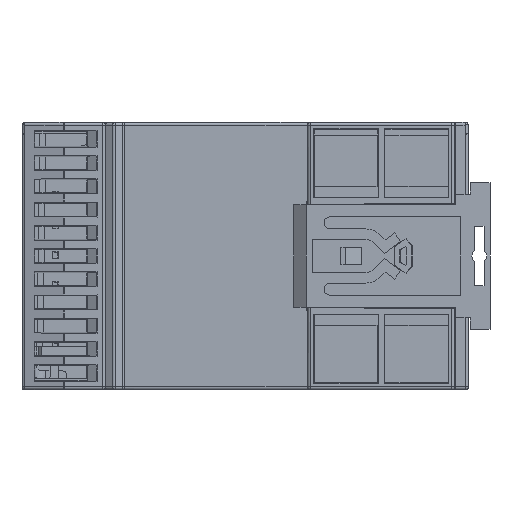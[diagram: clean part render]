
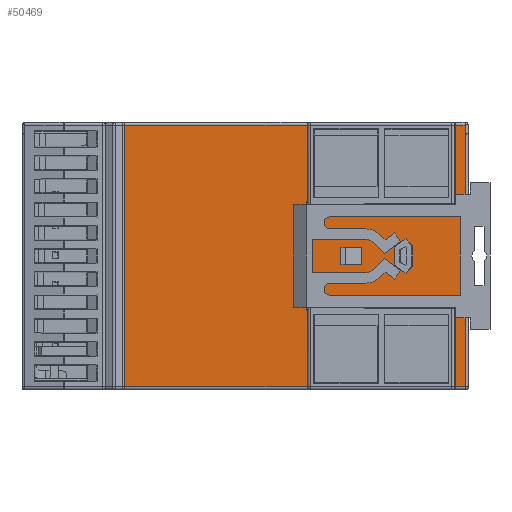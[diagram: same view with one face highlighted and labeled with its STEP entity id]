
A CAD part, left-side view. The second image highlights one B-rep face of the part: STEP entity #50469.
In plain terms, the highlighted planar face has unit normal (-1, 0, 0).
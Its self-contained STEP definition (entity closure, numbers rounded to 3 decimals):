
#4762=DIRECTION('',(0.,1.,0.));
#4763=VECTOR('',#4762,3.5);
#4764=CARTESIAN_POINT('',(-50.,-19.5,-19.));
#4765=LINE('',#4764,#4763);
#4769=DIRECTION('',(0.,0.,-1.));
#4770=VECTOR('',#4769,3.);
#4771=CARTESIAN_POINT('',(-50.,-16.,-19.));
#4772=LINE('',#4771,#4770);
#4776=DIRECTION('',(0.,1.,0.));
#4777=VECTOR('',#4776,3.5);
#4778=CARTESIAN_POINT('',(-50.,-19.5,-22.));
#4779=LINE('',#4778,#4777);
#4783=DIRECTION('',(0.,0.,-1.));
#4784=VECTOR('',#4783,3.);
#4785=CARTESIAN_POINT('',(-50.,-19.5,-19.));
#4786=LINE('',#4785,#4784);
#4832=DIRECTION('',(0.,-0.813,-0.582));
#4833=VECTOR('',#4832,2.459);
#4834=CARTESIAN_POINT('',(-50.,-25.,-22.015));
#4835=LINE('',#4834,#4833);
#4839=DIRECTION('',(0.,-0.642,0.767));
#4840=VECTOR('',#4839,1.558);
#4841=CARTESIAN_POINT('',(-50.,-27.,-23.445));
#4842=LINE('',#4841,#4840);
#4846=DIRECTION('',(0.,0.,1.));
#4847=VECTOR('',#4846,3.5);
#4848=CARTESIAN_POINT('',(-50.,-28.,-22.25));
#4849=LINE('',#4848,#4847);
#4853=DIRECTION('',(0.,0.642,0.767));
#4854=VECTOR('',#4853,1.558);
#4855=CARTESIAN_POINT('',(-50.,-28.,-18.75));
#4856=LINE('',#4855,#4854);
#4860=DIRECTION('',(0.,0.813,-0.582));
#4861=VECTOR('',#4860,2.459);
#4862=CARTESIAN_POINT('',(-50.,-27.,-17.555));
#4863=LINE('',#4862,#4861);
#4867=DIRECTION('',(0.,0.,-1.));
#4868=VECTOR('',#4867,3.03);
#4869=CARTESIAN_POINT('',(-50.,-25.,-18.985));
#4870=LINE('',#4869,#4868);
#4874=DIRECTION('',(0.,1.,0.));
#4875=VECTOR('',#4874,1.7);
#4876=CARTESIAN_POINT('',(-50.,-37.,-42.5));
#4877=LINE('',#4876,#4875);
#4881=DIRECTION('',(0.,1.,0.009));
#4882=VECTOR('',#4881,24.901);
#4883=CARTESIAN_POINT('',(-50.,-35.3,-31.217));
#4884=LINE('',#4883,#4882);
#4888=DIRECTION('',(0.,-1.,0.));
#4889=VECTOR('',#4888,30.719);
#4890=CARTESIAN_POINT('',(-50.,20.319,-42.5));
#4891=LINE('',#4890,#4889);
#4895=DIRECTION('',(0.,0.,-1.));
#4896=VECTOR('',#4895,44.);
#4897=CARTESIAN_POINT('',(-50.,20.319,1.5));
#4898=LINE('',#4897,#4896);
#4902=DIRECTION('',(0.,1.,0.));
#4903=VECTOR('',#4902,30.719);
#4904=CARTESIAN_POINT('',(-50.,-10.4,1.5));
#4905=LINE('',#4904,#4903);
#4909=DIRECTION('',(0.,1.,0.));
#4910=VECTOR('',#4909,1.621);
#4911=CARTESIAN_POINT('',(-50.,-36.921,1.5));
#4912=LINE('',#4911,#4910);
#4916=DIRECTION('',(0.,0.052,0.999));
#4917=VECTOR('',#4916,1.515);
#4918=CARTESIAN_POINT('',(-50.,-37.,-0.013));
#4919=LINE('',#4918,#4917);
#4923=DIRECTION('',(0.,0.,-1.));
#4924=VECTOR('',#4923,42.487);
#4925=CARTESIAN_POINT('',(-50.,-37.,-0.013));
#4926=LINE('',#4925,#4924);
#16108=DIRECTION('',(0.,0.,1.));
#16109=VECTOR('',#16108,11.5);
#16110=CARTESIAN_POINT('',(-50.,-10.4,-10.));
#16111=LINE('',#16110,#16109);
#16122=DIRECTION('',(0.,0.,1.));
#16123=VECTOR('',#16122,11.5);
#16124=CARTESIAN_POINT('',(-50.,-10.4,-42.5));
#16125=LINE('',#16124,#16123);
#16157=DIRECTION('',(0.,0.,-1.));
#16158=VECTOR('',#16157,11.283);
#16159=CARTESIAN_POINT('',(-50.,-35.3,1.5));
#16160=LINE('',#16159,#16158);
#16227=DIRECTION('',(0.,0.,-1.));
#16228=VECTOR('',#16227,11.283);
#16229=CARTESIAN_POINT('',(-50.,-35.3,-31.217));
#16230=LINE('',#16229,#16228);
#16241=DIRECTION('',(0.,1.,-0.009));
#16242=VECTOR('',#16241,24.901);
#16243=CARTESIAN_POINT('',(-50.,-35.3,-9.783));
#16244=LINE('',#16243,#16242);
#16304=CARTESIAN_POINT('',(-50.,-10.4,-42.5));
#41960=CARTESIAN_POINT('',(-50.,-19.5,-19.));
#41961=CARTESIAN_POINT('',(-50.,-16.,-19.));
#41962=VERTEX_POINT('',#41960);
#41963=VERTEX_POINT('',#41961);
#41964=CARTESIAN_POINT('',(-50.,-19.5,-22.));
#41965=CARTESIAN_POINT('',(-50.,-16.,-22.));
#41966=VERTEX_POINT('',#41964);
#41967=VERTEX_POINT('',#41965);
#42012=CARTESIAN_POINT('',(-50.,-25.,-22.015));
#42013=CARTESIAN_POINT('',(-50.,-27.,-23.445));
#42014=VERTEX_POINT('',#42012);
#42015=VERTEX_POINT('',#42013);
#42016=CARTESIAN_POINT('',(-50.,-28.,-22.25));
#42017=VERTEX_POINT('',#42016);
#42018=CARTESIAN_POINT('',(-50.,-28.,-18.75));
#42019=VERTEX_POINT('',#42018);
#42020=CARTESIAN_POINT('',(-50.,-27.,-17.555));
#42021=VERTEX_POINT('',#42020);
#42022=CARTESIAN_POINT('',(-50.,-25.,-18.985));
#42023=VERTEX_POINT('',#42022);
#42512=CARTESIAN_POINT('',(-50.,20.319,1.5));
#42513=VERTEX_POINT('',#42512);
#42516=CARTESIAN_POINT('',(-50.,-10.4,1.5));
#42517=VERTEX_POINT('',#42516);
#42532=CARTESIAN_POINT('',(-50.,-36.921,1.5));
#42533=CARTESIAN_POINT('',(-50.,-35.3,1.5));
#42534=VERTEX_POINT('',#42532);
#42535=VERTEX_POINT('',#42533);
#42536=CARTESIAN_POINT('',(-50.,-37.,-0.013));
#42537=VERTEX_POINT('',#42536);
#42555=CARTESIAN_POINT('',(-50.,-37.,-42.5));
#42557=VERTEX_POINT('',#42555);
#42566=CARTESIAN_POINT('',(-50.,-35.3,-42.5));
#42567=VERTEX_POINT('',#42566);
#42608=CARTESIAN_POINT('',(-50.,20.319,-42.5));
#42609=VERTEX_POINT('',#42608);
#42614=VERTEX_POINT('',#16304);
#42770=CARTESIAN_POINT('',(-50.,-35.3,-9.783));
#42772=VERTEX_POINT('',#42770);
#42780=CARTESIAN_POINT('',(-50.,-35.3,-31.217));
#42781=VERTEX_POINT('',#42780);
#42782=CARTESIAN_POINT('',(-50.,-10.4,-10.));
#42784=VERTEX_POINT('',#42782);
#42792=CARTESIAN_POINT('',(-50.,-10.4,-31.));
#42793=VERTEX_POINT('',#42792);
#50413=CARTESIAN_POINT('',(-50.,20.227,-43.));
#50414=DIRECTION('',(1.,0.,0.));
#50415=DIRECTION('',(0.,-1.,0.));
#50416=AXIS2_PLACEMENT_3D('',#50413,#50414,#50415);
#50417=PLANE('',#50416);
#50419=ORIENTED_EDGE('',*,*,#50418,.T.);
#50421=ORIENTED_EDGE('',*,*,#50420,.F.);
#50423=ORIENTED_EDGE('',*,*,#50422,.T.);
#50425=ORIENTED_EDGE('',*,*,#50424,.F.);
#50427=ORIENTED_EDGE('',*,*,#50426,.F.);
#50429=ORIENTED_EDGE('',*,*,#50428,.F.);
#50431=ORIENTED_EDGE('',*,*,#50430,.F.);
#50433=ORIENTED_EDGE('',*,*,#50432,.F.);
#50435=ORIENTED_EDGE('',*,*,#50434,.F.);
#50437=ORIENTED_EDGE('',*,*,#50436,.F.);
#50439=ORIENTED_EDGE('',*,*,#50438,.F.);
#50441=ORIENTED_EDGE('',*,*,#50440,.F.);
#50442=ORIENTED_EDGE('',*,*,#50385,.T.);
#50443=EDGE_LOOP('',(#50419,#50421,#50423,#50425,#50427,#50429,#50431,#50433,
#50435,#50437,#50439,#50441,#50442));
#50444=FACE_OUTER_BOUND('',#50443,.F.);
#50446=ORIENTED_EDGE('',*,*,#50445,.T.);
#50448=ORIENTED_EDGE('',*,*,#50447,.T.);
#50450=ORIENTED_EDGE('',*,*,#50449,.F.);
#50452=ORIENTED_EDGE('',*,*,#50451,.F.);
#50453=EDGE_LOOP('',(#50446,#50448,#50450,#50452));
#50454=FACE_BOUND('',#50453,.F.);
#50456=ORIENTED_EDGE('',*,*,#50455,.T.);
#50458=ORIENTED_EDGE('',*,*,#50457,.T.);
#50460=ORIENTED_EDGE('',*,*,#50459,.T.);
#50462=ORIENTED_EDGE('',*,*,#50461,.T.);
#50464=ORIENTED_EDGE('',*,*,#50463,.T.);
#50466=ORIENTED_EDGE('',*,*,#50465,.T.);
#50467=EDGE_LOOP('',(#50456,#50458,#50460,#50462,#50464,#50466));
#50468=FACE_BOUND('',#50467,.F.);
#50385=EDGE_CURVE('',#42537,#42557,#4926,.T.);
#50418=EDGE_CURVE('',#42557,#42567,#4877,.T.);
#50420=EDGE_CURVE('',#42781,#42567,#16230,.T.);
#50422=EDGE_CURVE('',#42781,#42793,#4884,.T.);
#50424=EDGE_CURVE('',#42614,#42793,#16125,.T.);
#50426=EDGE_CURVE('',#42609,#42614,#4891,.T.);
#50428=EDGE_CURVE('',#42513,#42609,#4898,.T.);
#50430=EDGE_CURVE('',#42517,#42513,#4905,.T.);
#50432=EDGE_CURVE('',#42784,#42517,#16111,.T.);
#50434=EDGE_CURVE('',#42772,#42784,#16244,.T.);
#50436=EDGE_CURVE('',#42535,#42772,#16160,.T.);
#50438=EDGE_CURVE('',#42534,#42535,#4912,.T.);
#50440=EDGE_CURVE('',#42537,#42534,#4919,.T.);
#50445=EDGE_CURVE('',#41962,#41963,#4765,.T.);
#50447=EDGE_CURVE('',#41963,#41967,#4772,.T.);
#50449=EDGE_CURVE('',#41966,#41967,#4779,.T.);
#50451=EDGE_CURVE('',#41962,#41966,#4786,.T.);
#50455=EDGE_CURVE('',#42014,#42015,#4835,.T.);
#50457=EDGE_CURVE('',#42015,#42017,#4842,.T.);
#50459=EDGE_CURVE('',#42017,#42019,#4849,.T.);
#50461=EDGE_CURVE('',#42019,#42021,#4856,.T.);
#50463=EDGE_CURVE('',#42021,#42023,#4863,.T.);
#50465=EDGE_CURVE('',#42023,#42014,#4870,.T.);
#50469=ADVANCED_FACE('',(#50444,#50454,#50468),#50417,.F.);
